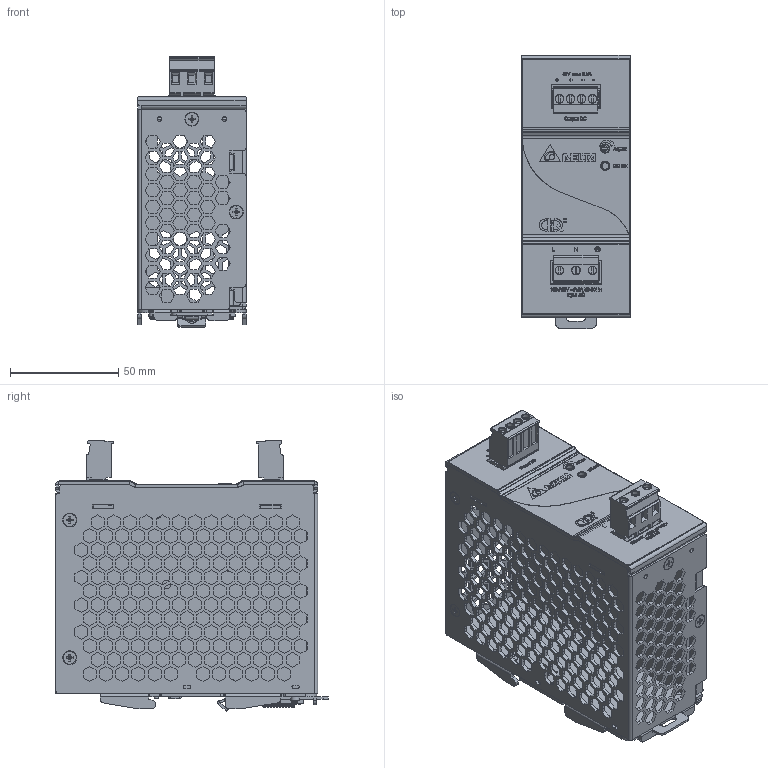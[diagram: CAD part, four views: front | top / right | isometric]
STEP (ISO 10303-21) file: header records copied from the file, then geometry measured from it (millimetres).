
FILE_DESCRIPTION((''),'2;1');
FILE_NAME('DRP048V120W1BA_ASM','2012-04-24T',('Manop.Pr'),(''),'PRO/ENGINEER BY PARAMETRIC TECHNOLOGY CORPORATION, 2010180','PRO/ENGINEER BY PARAMETRIC TECHNOLOGY CORPORATION, 2010180','');
FILE_SCHEMA(('CONFIG_CONTROL_DESIGN','SHAPE_APPEARANCE_LAYERS_GROUPS'));
Products named in the file (27): 330301760000; 330301760000_A_STUD; 330301760000_ASM; 331610480000; 331610470101; 326828420101; 3268209100; 3202315200; 3461303000; 3460088100; 3462026200; ASSY_LATCH_50X100_ASM; 2958049703_PWB_MAIN; EE_VR350; 2968133201_DCT-1332; 3070487546; 3051627246; 3071616046; 3050252046; EE_LED1; ASSY_DCT-1332_ASM; ASSY_PWB_ASM; 3100320800; 3100020600; 3100000400; 3100000600; DRP048V120W1BA_ASM
Assembly tree (34 placements, depth 4):
  DRP048V120W1BA_ASM
    330301760000_ASM
      330301760000
      330301760000_A_STUD  x2
    331610480000
    331610470101
    326828420101
    3268209100
    3202315200
    ASSY_LATCH_50X100_ASM
      3461303000
      3460088100
      3462026200
    ASSY_PWB_ASM
      2958049703_PWB_MAIN
      EE_VR350
      ASSY_DCT-1332_ASM
        2968133201_DCT-1332
        3070487546
        3051627246
        3071616046
        3050252046
        EE_LED1
    3100320800  x2
    3100020600  x4
    3100000400  x3
    3100000600  x2
Bounding box: 50.1 x 126.05 x 124.98 mm (x, y, z)
Volume: 99154.2 mm3; surface area: 159809.4 mm2
Topology: 32 solids, 32 shells, 6451 faces, 17733 edges, 11523 vertices
Faces by surface type: plane 4636, cylinder 768, extrusion 666, cone 177, bspline 116, torus 64, sphere 24
Entity records: 262813 total; most frequent: CARTESIAN_POINT 51322, ORIENTED_EDGE 33854, DIRECTION 28801, PRESENTATION_STYLE_ASSIGNMENT 17302, STYLED_ITEM 17000, CURVE_STYLE 16927, EDGE_CURVE 16927, VECTOR 14157
